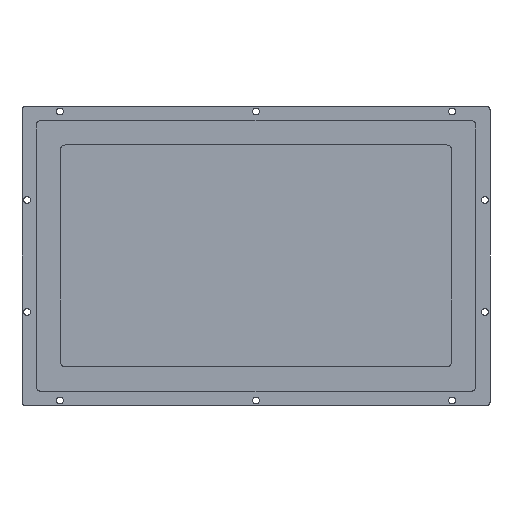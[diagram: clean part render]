
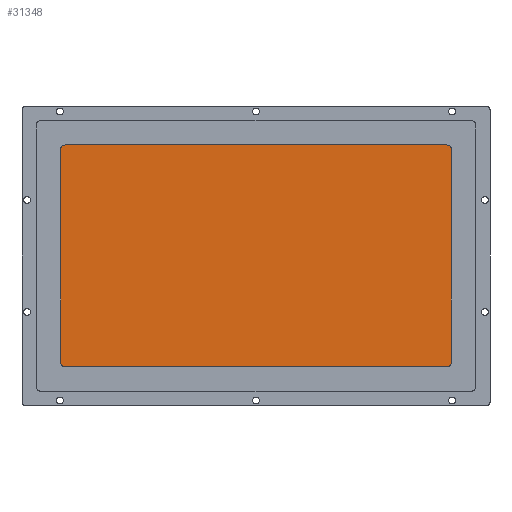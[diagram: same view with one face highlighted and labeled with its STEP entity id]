
A CAD part, front view. The second image highlights one B-rep face of the part: STEP entity #31348.
In plain terms, the highlighted planar face has unit normal (0, -1, 0).
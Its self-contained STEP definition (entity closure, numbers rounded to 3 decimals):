
#2091=PLANE('',#33938);
#3701=FACE_OUTER_BOUND('',#5620,.T.);
#5620=EDGE_LOOP('',(#27677,#27678,#27679,#27680,#27681,#27682,#27683,#27684));
#8310=LINE('',#53565,#11022);
#8311=LINE('',#53569,#11023);
#8312=LINE('',#53573,#11024);
#8313=LINE('',#53576,#11025);
#11022=VECTOR('',#41648,10.);
#11023=VECTOR('',#41651,10.);
#11024=VECTOR('',#41654,10.);
#11025=VECTOR('',#41657,10.);
#12122=CIRCLE('',#33922,4.);
#12123=CIRCLE('',#33923,4.);
#12124=CIRCLE('',#33924,4.);
#12125=CIRCLE('',#33925,4.);
#14939=VERTEX_POINT('',#53561);
#14940=VERTEX_POINT('',#53562);
#14941=VERTEX_POINT('',#53564);
#14942=VERTEX_POINT('',#53566);
#14943=VERTEX_POINT('',#53568);
#14944=VERTEX_POINT('',#53570);
#14945=VERTEX_POINT('',#53572);
#14946=VERTEX_POINT('',#53574);
#19181=EDGE_CURVE('',#14939,#14940,#12122,.T.);
#19182=EDGE_CURVE('',#14941,#14939,#8310,.T.);
#19183=EDGE_CURVE('',#14942,#14941,#12123,.T.);
#19184=EDGE_CURVE('',#14943,#14942,#8311,.T.);
#19185=EDGE_CURVE('',#14944,#14943,#12124,.T.);
#19186=EDGE_CURVE('',#14945,#14944,#8312,.T.);
#19187=EDGE_CURVE('',#14946,#14945,#12125,.T.);
#19188=EDGE_CURVE('',#14940,#14946,#8313,.T.);
#27677=ORIENTED_EDGE('',*,*,#19181,.T.);
#27678=ORIENTED_EDGE('',*,*,#19188,.T.);
#27679=ORIENTED_EDGE('',*,*,#19187,.T.);
#27680=ORIENTED_EDGE('',*,*,#19186,.T.);
#27681=ORIENTED_EDGE('',*,*,#19185,.T.);
#27682=ORIENTED_EDGE('',*,*,#19184,.T.);
#27683=ORIENTED_EDGE('',*,*,#19183,.T.);
#27684=ORIENTED_EDGE('',*,*,#19182,.T.);
#31348=ADVANCED_FACE('',(#3701),#2091,.T.);
#33922=AXIS2_PLACEMENT_3D('',#53563,#41646,#41647);
#33923=AXIS2_PLACEMENT_3D('',#53567,#41649,#41650);
#33924=AXIS2_PLACEMENT_3D('',#53571,#41652,#41653);
#33925=AXIS2_PLACEMENT_3D('',#53575,#41655,#41656);
#33938=AXIS2_PLACEMENT_3D('',#53609,#41694,#41695);
#41646=DIRECTION('center_axis',(0.,-1.,0.));
#41647=DIRECTION('ref_axis',(0.,0.,-1.));
#41648=DIRECTION('',(-1.,0.,0.));
#41649=DIRECTION('center_axis',(0.,-1.,0.));
#41650=DIRECTION('ref_axis',(-1.,0.,0.));
#41651=DIRECTION('',(0.,0.,1.));
#41652=DIRECTION('center_axis',(0.,-1.,0.));
#41653=DIRECTION('ref_axis',(0.,0.,1.));
#41654=DIRECTION('',(1.,0.,0.));
#41655=DIRECTION('center_axis',(0.,-1.,0.));
#41656=DIRECTION('ref_axis',(1.,0.,0.));
#41657=DIRECTION('',(0.,0.,-1.));
#41694=DIRECTION('center_axis',(0.,-1.,0.));
#41695=DIRECTION('ref_axis',(1.,0.,0.));
#53561=CARTESIAN_POINT('',(-170.3,-2.2,98.95));
#53562=CARTESIAN_POINT('',(-174.3,-2.2,94.95));
#53563=CARTESIAN_POINT('Origin',(-170.3,-2.2,94.95));
#53564=CARTESIAN_POINT('',(170.3,-2.2,98.95));
#53565=CARTESIAN_POINT('',(85.15,-2.2,98.95));
#53566=CARTESIAN_POINT('',(174.3,-2.2,94.95));
#53567=CARTESIAN_POINT('Origin',(170.3,-2.2,94.95));
#53568=CARTESIAN_POINT('',(174.3,-2.2,-94.95));
#53569=CARTESIAN_POINT('',(174.3,-2.2,-47.475));
#53570=CARTESIAN_POINT('',(170.3,-2.2,-98.95));
#53571=CARTESIAN_POINT('Origin',(170.3,-2.2,-94.95));
#53572=CARTESIAN_POINT('',(-170.3,-2.2,-98.95));
#53573=CARTESIAN_POINT('',(-85.15,-2.2,-98.95));
#53574=CARTESIAN_POINT('',(-174.3,-2.2,-94.95));
#53575=CARTESIAN_POINT('Origin',(-170.3,-2.2,-94.95));
#53576=CARTESIAN_POINT('',(-174.3,-2.2,47.475));
#53609=CARTESIAN_POINT('Origin',(0.,-2.2,0.));
